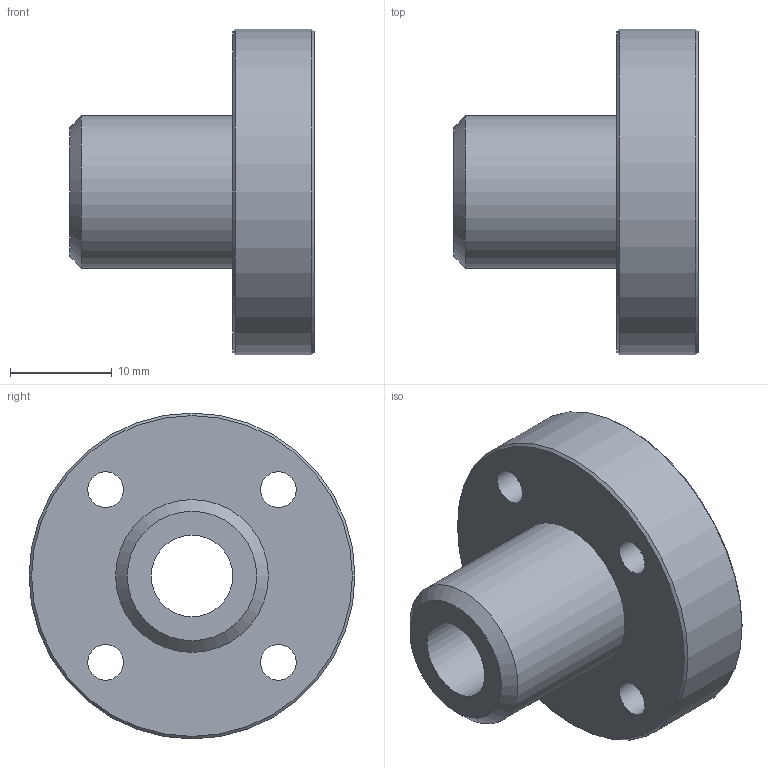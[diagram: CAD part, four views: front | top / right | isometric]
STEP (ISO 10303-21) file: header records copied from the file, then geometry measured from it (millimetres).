
FILE_DESCRIPTION(('STEP AP203'),'1');
FILE_NAME('//192.168.1.1/share/s-4 技術開発/s-4-4_CAD/s-4-4-3_見直し済み/PBC LINEAR修正済み/3D途中/SFPJ/SFPJR/SFPJR08.step','2022-03-24T06:34:08',(' '),(' '),'Spatial InterOp 3D',' ',' ');
FILE_SCHEMA(('CONFIG_CONTROL_DESIGN'));
Length unit declared in the file: millimetre
Products named in the file (1): 1
Bounding box: 24 x 32 x 32 mm (x, y, z)
Volume: 7479.8 mm3; surface area: 3978.1 mm2
Topology: 1 solids, 1 shells, 21 faces, 43 edges, 29 vertices
Faces by surface type: cylinder 11, plane 7, cone 3
Full cylindrical faces by diameter (mm): 3.5 x4, 6 x4, 8 x1, 15 x1, 32 x1
Entity records: 528 total; most frequent: DIRECTION 94, CARTESIAN_POINT 72, EDGE_LOOP 50, ORIENTED_EDGE 50, AXIS2_PLACEMENT_3D 47, FACE_OUTER_BOUND 32, EDGE_CURVE 25, VERTEX_POINT 25
